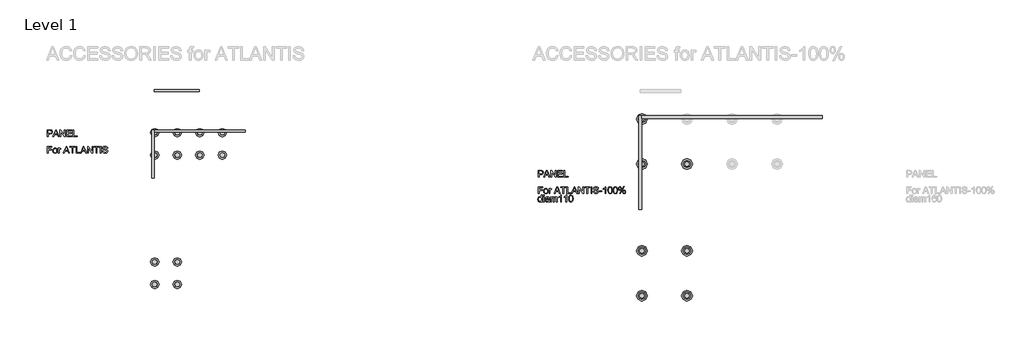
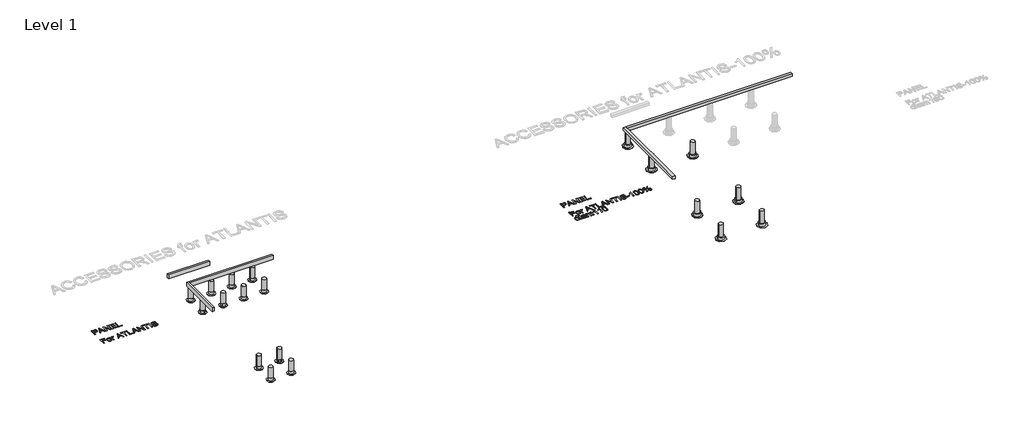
# One storey, part 1 of 6: 45 proxies.
"""IFC4 building model written with IfcOpenShell, lengths in millimetres."""

from ifc_helpers import new_model, si_unit, origin, origin_with_axes, place, context, project, spatial, polyline, outline, extrude, transform, mapped, element, save
from components import generic_models_6a19e57f, generic_models_4fecf16d, generic_models_13485cf7, generic_models_0d661f09, generic_models_1f42381d, generic_models_739762aa, generic_models_3906c24f, generic_models_1072ffb0, generic_models_70562a10

model = new_model("IFC4")

# Units and contexts
model_context = context("Model", 3, world=origin())
ifc_project = project(units=[si_unit("LENGTHUNIT", "METRE", prefix="MILLI")], contexts=[model_context])

# Site, building, storey
site = spatial("IfcSite", under=ifc_project)
building = spatial("IfcBuilding", under=site)
storey = spatial("IfcBuildingStorey", under=building, Name="Level 1", Elevation=0.0)

# Proxies
placement = place(None, origin())
generic_models_shape = generic_models_6a19e57f(model_context)
element("IfcBuildingElementProxy", 1, Name="Building Materials_Other_Accessory_PIPE BASE_for ATLANTIS : PIPE BASE_Ø110", ObjectType="Building Materials_Other_Accessory_PIPE BASE_for ATLANTIS : PIPE BASE_Ø110", at=placement, inside=storey, context=model_context, shape_type="MappedRepresentation", body=[
    mapped(generic_models_shape, transform((-8098.9493118, -1505.2229515, 0.0), x_axis=(1.0, 0.0, 0.0), y_axis=(0.0, 1.0, 0.0), z_axis=(0.0, 0.0, 1.0))),
])
element("IfcBuildingElementProxy", 2, Name="Building Materials_Other_Accessory_PIPE BASE_for ATLANTIS : PIPE BASE_Ø110", ObjectType="Building Materials_Other_Accessory_PIPE BASE_for ATLANTIS : PIPE BASE_Ø110", at=placement, inside=storey, context=model_context, shape_type="MappedRepresentation", body=[
    mapped(generic_models_shape, transform((-7598.9493118, -1505.2229515, 0.0), x_axis=(1.0, 0.0, 0.0), y_axis=(0.0, 1.0, 0.0), z_axis=(0.0, 0.0, 1.0))),
])
element("IfcBuildingElementProxy", 3, Name="Building Materials_Other_Accessory_PIPE BASE_for ATLANTIS : PIPE BASE_Ø110", ObjectType="Building Materials_Other_Accessory_PIPE BASE_for ATLANTIS : PIPE BASE_Ø110", at=placement, inside=storey, context=model_context, shape_type="MappedRepresentation", body=[
    mapped(generic_models_shape, transform((-7098.9493118, -1505.2229515, 0.0), x_axis=(1.0, 0.0, 0.0), y_axis=(0.0, 1.0, 0.0), z_axis=(0.0, 0.0, 1.0))),
])
element("IfcBuildingElementProxy", 4, Name="Building Materials_Other_Accessory_PIPE BASE_for ATLANTIS : PIPE BASE_Ø110", ObjectType="Building Materials_Other_Accessory_PIPE BASE_for ATLANTIS : PIPE BASE_Ø110", at=placement, inside=storey, context=model_context, shape_type="MappedRepresentation", body=[
    mapped(generic_models_shape, transform((-8098.9493118, -2005.2229515, 0.0), x_axis=(1.0, 0.0, 0.0), y_axis=(0.0, 1.0, 0.0), z_axis=(0.0, 0.0, 1.0))),
])
element("IfcBuildingElementProxy", 5, Name="Building Materials_Other_Accessory_PIPE BASE_for ATLANTIS : PIPE BASE_Ø110", ObjectType="Building Materials_Other_Accessory_PIPE BASE_for ATLANTIS : PIPE BASE_Ø110", at=placement, inside=storey, context=model_context, shape_type="MappedRepresentation", body=[
    mapped(generic_models_shape, transform((-7598.9493118, -2005.2229515, 0.0), x_axis=(1.0, 0.0, 0.0), y_axis=(0.0, 1.0, 0.0), z_axis=(0.0, 0.0, 1.0))),
])
element("IfcBuildingElementProxy", 6, Name="Building Materials_Other_Accessory_PIPE BASE_for ATLANTIS : PIPE BASE_Ø110", ObjectType="Building Materials_Other_Accessory_PIPE BASE_for ATLANTIS : PIPE BASE_Ø110", at=placement, inside=storey, context=model_context, shape_type="MappedRepresentation", body=[
    mapped(generic_models_shape, transform((-7098.9493118, -2005.2229515, 0.0), x_axis=(1.0, 0.0, 0.0), y_axis=(0.0, 1.0, 0.0), z_axis=(0.0, 0.0, 1.0))),
])
element("IfcBuildingElementProxy", 7, Name="Building Materials_Other_Accessory_PIPE BASE_for ATLANTIS : PIPE BASE_Ø110", ObjectType="Building Materials_Other_Accessory_PIPE BASE_for ATLANTIS : PIPE BASE_Ø110", at=placement, inside=storey, context=model_context, shape_type="MappedRepresentation", body=[
    mapped(generic_models_shape, transform((-6598.9493118, -1505.2229515, 0.0), x_axis=(1.0, 0.0, 0.0), y_axis=(0.0, 1.0, 0.0), z_axis=(0.0, 0.0, 1.0))),
])
element("IfcBuildingElementProxy", 8, Name="Building Materials_Other_Accessory_PIPE BASE_for ATLANTIS : PIPE BASE_Ø110", ObjectType="Building Materials_Other_Accessory_PIPE BASE_for ATLANTIS : PIPE BASE_Ø110", at=placement, inside=storey, context=model_context, shape_type="MappedRepresentation", body=[
    mapped(generic_models_shape, transform((-6598.9493118, -2005.2229515, 0.0), x_axis=(1.0, 0.0, 0.0), y_axis=(0.0, 1.0, 0.0), z_axis=(0.0, 0.0, 1.0))),
])
element("IfcBuildingElementProxy", 9, Name="Building Materials_Other_Accessory_PIPE BASE_for ATLANTIS : PIPE BASE_Ø110", ObjectType="Building Materials_Other_Accessory_PIPE BASE_for ATLANTIS : PIPE BASE_Ø110", at=placement, inside=storey, context=model_context, shape_type="MappedRepresentation", body=[
    mapped(generic_models_shape, transform((-8098.9493118, -4378.7802575, 0.0), x_axis=(1.0, 0.0, 0.0), y_axis=(0.0, 1.0, 0.0), z_axis=(0.0, 0.0, 1.0))),
])
element("IfcBuildingElementProxy", 10, Name="Building Materials_Other_Accessory_PIPE BASE_for ATLANTIS : PIPE BASE_Ø110", ObjectType="Building Materials_Other_Accessory_PIPE BASE_for ATLANTIS : PIPE BASE_Ø110", at=placement, inside=storey, context=model_context, shape_type="MappedRepresentation", body=[
    mapped(generic_models_shape, transform((-7598.9493118, -4378.7802575, 0.0), x_axis=(1.0, 0.0, 0.0), y_axis=(0.0, 1.0, 0.0), z_axis=(0.0, 0.0, 1.0))),
])
generic_models_2_shape = generic_models_4fecf16d(model_context)
element("IfcBuildingElementProxy", 11, Name="Building Materials_Other_Accessory_LEG_for ATLANTIS : LEG_Ø110", ObjectType="Building Materials_Other_Accessory_LEG_for ATLANTIS : LEG_Ø110", at=placement, inside=storey, context=model_context, shape_type="MappedRepresentation", body=[
    mapped(generic_models_2_shape, transform((-8098.9493118, -1505.2229515, 0.0), x_axis=(1.0, 0.0, 0.0), y_axis=(0.0, 1.0, 0.0), z_axis=(0.0, 0.0, 1.0))),
])
element("IfcBuildingElementProxy", 12, Name="Building Materials_Other_Accessory_LEG_for ATLANTIS : LEG_Ø110", ObjectType="Building Materials_Other_Accessory_LEG_for ATLANTIS : LEG_Ø110", at=placement, inside=storey, context=model_context, shape_type="MappedRepresentation", body=[
    mapped(generic_models_2_shape, transform((-7598.9493118, -1505.2229515, 0.0), x_axis=(1.0, 0.0, 0.0), y_axis=(0.0, 1.0, 0.0), z_axis=(0.0, 0.0, 1.0))),
])
element("IfcBuildingElementProxy", 13, Name="Building Materials_Other_Accessory_LEG_for ATLANTIS : LEG_Ø110", ObjectType="Building Materials_Other_Accessory_LEG_for ATLANTIS : LEG_Ø110", at=placement, inside=storey, context=model_context, shape_type="MappedRepresentation", body=[
    mapped(generic_models_2_shape, transform((-7098.9493118, -1505.2229515, 0.0), x_axis=(1.0, 0.0, 0.0), y_axis=(0.0, 1.0, 0.0), z_axis=(0.0, 0.0, 1.0))),
])
element("IfcBuildingElementProxy", 14, Name="Building Materials_Other_Accessory_LEG_for ATLANTIS : LEG_Ø110", ObjectType="Building Materials_Other_Accessory_LEG_for ATLANTIS : LEG_Ø110", at=placement, inside=storey, context=model_context, shape_type="MappedRepresentation", body=[
    mapped(generic_models_2_shape, transform((-8098.9493118, -2005.2229515, 0.0), x_axis=(1.0, 0.0, 0.0), y_axis=(0.0, 1.0, 0.0), z_axis=(0.0, 0.0, 1.0))),
])
element("IfcBuildingElementProxy", 15, Name="Building Materials_Other_Accessory_LEG_for ATLANTIS : LEG_Ø110", ObjectType="Building Materials_Other_Accessory_LEG_for ATLANTIS : LEG_Ø110", at=placement, inside=storey, context=model_context, shape_type="MappedRepresentation", body=[
    mapped(generic_models_2_shape, transform((-7598.9493118, -2005.2229515, 0.0), x_axis=(1.0, 0.0, 0.0), y_axis=(0.0, 1.0, 0.0), z_axis=(0.0, 0.0, 1.0))),
])
element("IfcBuildingElementProxy", 16, Name="Building Materials_Other_Accessory_LEG_for ATLANTIS : LEG_Ø110", ObjectType="Building Materials_Other_Accessory_LEG_for ATLANTIS : LEG_Ø110", at=placement, inside=storey, context=model_context, shape_type="MappedRepresentation", body=[
    mapped(generic_models_2_shape, transform((-7098.9493118, -2005.2229515, 0.0), x_axis=(1.0, 0.0, 0.0), y_axis=(0.0, 1.0, 0.0), z_axis=(0.0, 0.0, 1.0))),
])
element("IfcBuildingElementProxy", 17, Name="Building Materials_Other_Accessory_LEG_for ATLANTIS : LEG_Ø110", ObjectType="Building Materials_Other_Accessory_LEG_for ATLANTIS : LEG_Ø110", at=placement, inside=storey, context=model_context, shape_type="MappedRepresentation", body=[
    mapped(generic_models_2_shape, transform((-6598.9493118, -1505.2229515, 0.0), x_axis=(1.0, 0.0, 0.0), y_axis=(0.0, 1.0, 0.0), z_axis=(0.0, 0.0, 1.0))),
])
element("IfcBuildingElementProxy", 18, Name="Building Materials_Other_Accessory_LEG_for ATLANTIS : LEG_Ø110", ObjectType="Building Materials_Other_Accessory_LEG_for ATLANTIS : LEG_Ø110", at=placement, inside=storey, context=model_context, shape_type="MappedRepresentation", body=[
    mapped(generic_models_2_shape, transform((-6598.9493118, -2005.2229515, 0.0), x_axis=(1.0, 0.0, 0.0), y_axis=(0.0, 1.0, 0.0), z_axis=(0.0, 0.0, 1.0))),
])
element("IfcBuildingElementProxy", 19, Name="Building Materials_Other_Accessory_LEG_for ATLANTIS : LEG_Ø110", ObjectType="Building Materials_Other_Accessory_LEG_for ATLANTIS : LEG_Ø110", at=placement, inside=storey, context=model_context, shape_type="MappedRepresentation", body=[
    mapped(generic_models_2_shape, transform((-8098.9493118, -4378.7802575, 0.0), x_axis=(1.0, 0.0, 0.0), y_axis=(0.0, 1.0, 0.0), z_axis=(0.0, 0.0, 1.0))),
])
element("IfcBuildingElementProxy", 20, Name="Building Materials_Other_Accessory_LEG_for ATLANTIS : LEG_Ø110", ObjectType="Building Materials_Other_Accessory_LEG_for ATLANTIS : LEG_Ø110", at=placement, inside=storey, context=model_context, shape_type="MappedRepresentation", body=[
    mapped(generic_models_2_shape, transform((-7598.9493118, -4878.7802575, 0.0), x_axis=(-1.0, 0.0, 0.0), y_axis=(0.0, -1.0, 0.0), z_axis=(0.0, 0.0, 1.0))),
])
generic_models_3_shape = generic_models_13485cf7(model_context)
element("IfcBuildingElementProxy", 21, Name="Building Materials_Other_Accessory_PIPE BASE_for ATLANTIS : PIPE BASE_Ø160", ObjectType="Building Materials_Other_Accessory_PIPE BASE_for ATLANTIS : PIPE BASE_Ø160", at=placement, inside=storey, context=model_context, shape_type="MappedRepresentation", body=[
    mapped(generic_models_3_shape, transform((2720.4933821, -1201.7802575, 0.0), x_axis=(1.0, 0.0, 0.0), y_axis=(0.0, 1.0, 0.0), z_axis=(0.0, 0.0, 1.0))),
])
element("IfcBuildingElementProxy", 22, Name="Building Materials_Other_Accessory_PIPE BASE_for ATLANTIS : PIPE BASE_Ø160", ObjectType="Building Materials_Other_Accessory_PIPE BASE_for ATLANTIS : PIPE BASE_Ø160", at=placement, inside=storey, context=model_context, shape_type="MappedRepresentation", body=[
    mapped(generic_models_3_shape, transform((2720.4933821, -2201.7802575, 0.0), x_axis=(1.0, 0.0, 0.0), y_axis=(0.0, 1.0, 0.0), z_axis=(0.0, 0.0, 1.0))),
])
element("IfcBuildingElementProxy", 23, Name="Building Materials_Other_Accessory_PIPE BASE_for ATLANTIS : PIPE BASE_Ø160", ObjectType="Building Materials_Other_Accessory_PIPE BASE_for ATLANTIS : PIPE BASE_Ø160", at=placement, inside=storey, context=model_context, shape_type="MappedRepresentation", body=[
    mapped(generic_models_3_shape, transform((3720.4933821, -2201.7802575, 0.0), x_axis=(1.0, 0.0, 0.0), y_axis=(0.0, 1.0, 0.0), z_axis=(0.0, 0.0, 1.0))),
])
element("IfcBuildingElementProxy", 24, Name="Building Materials_Other_Accessory_PIPE BASE_for ATLANTIS : PIPE BASE_Ø160", ObjectType="Building Materials_Other_Accessory_PIPE BASE_for ATLANTIS : PIPE BASE_Ø160", at=placement, inside=storey, context=model_context, shape_type="MappedRepresentation", body=[
    mapped(generic_models_3_shape, transform((2720.4933821, -4128.7802575, 0.0), x_axis=(1.0, 0.0, 0.0), y_axis=(0.0, 1.0, 0.0), z_axis=(0.0, 0.0, 1.0))),
])
element("IfcBuildingElementProxy", 25, Name="Building Materials_Other_Accessory_PIPE BASE_for ATLANTIS : PIPE BASE_Ø160", ObjectType="Building Materials_Other_Accessory_PIPE BASE_for ATLANTIS : PIPE BASE_Ø160", at=placement, inside=storey, context=model_context, shape_type="MappedRepresentation", body=[
    mapped(generic_models_3_shape, transform((3720.4933821, -4128.7802575, 0.0), x_axis=(1.0, 0.0, 0.0), y_axis=(0.0, 1.0, 0.0), z_axis=(0.0, 0.0, 1.0))),
])
generic_models_4_shape = generic_models_0d661f09(model_context)
element("IfcBuildingElementProxy", 26, Name="Building Materials_Other_Accessory_LEG_for ATLANTIS : LEG_Ø110", ObjectType="Building Materials_Other_Accessory_LEG_for ATLANTIS : LEG_Ø110", at=placement, inside=storey, context=model_context, shape_type="MappedRepresentation", body=[
    mapped(generic_models_4_shape, transform((2720.4933821, -1201.7802575, 0.0), x_axis=(1.0, 0.0, 0.0), y_axis=(0.0, 1.0, 0.0), z_axis=(0.0, 0.0, 1.0))),
])
element("IfcBuildingElementProxy", 27, Name="Building Materials_Other_Accessory_LEG_for ATLANTIS : LEG_Ø110", ObjectType="Building Materials_Other_Accessory_LEG_for ATLANTIS : LEG_Ø110", at=placement, inside=storey, context=model_context, shape_type="MappedRepresentation", body=[
    mapped(generic_models_4_shape, transform((2720.4933821, -2201.7802575, 0.0), x_axis=(1.0, 0.0, 0.0), y_axis=(0.0, 1.0, 0.0), z_axis=(0.0, 0.0, 1.0))),
])
element("IfcBuildingElementProxy", 28, Name="Building Materials_Other_Accessory_LEG_for ATLANTIS : LEG_Ø110", ObjectType="Building Materials_Other_Accessory_LEG_for ATLANTIS : LEG_Ø110", at=placement, inside=storey, context=model_context, shape_type="MappedRepresentation", body=[
    mapped(generic_models_4_shape, transform((3720.4933821, -2201.7802575, 0.0), x_axis=(1.0, 0.0, 0.0), y_axis=(0.0, 1.0, 0.0), z_axis=(0.0, 0.0, 1.0))),
])
element("IfcBuildingElementProxy", 29, Name="Building Materials_Other_Accessory_LEG_for ATLANTIS : LEG_Ø110", ObjectType="Building Materials_Other_Accessory_LEG_for ATLANTIS : LEG_Ø110", at=placement, inside=storey, context=model_context, shape_type="MappedRepresentation", body=[
    mapped(generic_models_4_shape, transform((2720.4933821, -4128.7802575, 0.0), x_axis=(1.0, 0.0, 0.0), y_axis=(0.0, 1.0, 0.0), z_axis=(0.0, 0.0, 1.0))),
])
element("IfcBuildingElementProxy", 30, Name="Building Materials_Other_Accessory_LEG_for ATLANTIS : LEG_Ø110", ObjectType="Building Materials_Other_Accessory_LEG_for ATLANTIS : LEG_Ø110", at=placement, inside=storey, context=model_context, shape_type="MappedRepresentation", body=[
    mapped(generic_models_4_shape, transform((3720.4933821, -5128.7802575, 0.0), x_axis=(-1.0, 0.0, 0.0), y_axis=(0.0, -1.0, 0.0), z_axis=(0.0, 0.0, 1.0))),
])
generic_models_5_shape = generic_models_1f42381d(model_context)
element("IfcBuildingElementProxy", 31, Name="Building-Materials_Other_Daliform_Simple-Family_Accessory_PANEL_for ATLANTIS : PANEL_ATLANTIS_diam110_5x100x10", ObjectType="Building-Materials_Other_Daliform_Simple-Family_Accessory_PANEL_for ATLANTIS : PANEL_ATLANTIS_diam110_5x100x10", at=placement, inside=storey, context=model_context, shape_type="MappedRepresentation", body=[
    mapped(generic_models_5_shape, transform((-8110.3920058, -1443.7802575, 340.0), x_axis=(1.0, 0.0, 0.0), y_axis=(0.0, 1.0, 0.0), z_axis=(0.0, 0.0, 1.0))),
])
generic_models_6_shape = generic_models_739762aa(model_context)
element("IfcBuildingElementProxy", 32, Name="Building-Materials_Other_Daliform_Simple-Family_Accessory_PANEL_for ATLANTIS : PANEL_ATLANTIS-100_diam110_6.5x90x6.5", ObjectType="Building-Materials_Other_Daliform_Simple-Family_Accessory_PANEL_for ATLANTIS : PANEL_ATLANTIS-100_diam110_6.5x90x6.5", at=placement, inside=storey, context=model_context, shape_type="MappedRepresentation", body=[
    mapped(generic_models_6_shape, transform((2712.4933821, -1128.7802575, 380.0), x_axis=(1.0, 0.0, 0.0), y_axis=(0.0, 1.0, 0.0), z_axis=(0.0, 0.0, 1.0))),
])
generic_models_7_shape = generic_models_3906c24f(model_context)
element("IfcBuildingElementProxy", 33, Name="Building-Materials_Other_Daliform_Simple-Family_Accessory_PANEL_for ATLANTIS : PANEL_ATLANTIS_diam110_5x100x10", ObjectType="Building-Materials_Other_Daliform_Simple-Family_Accessory_PANEL_for ATLANTIS : PANEL_ATLANTIS_diam110_5x100x10", at=placement, inside=storey, context=model_context, shape_type="MappedRepresentation", body=[
    mapped(generic_models_7_shape, transform((-8110.3920058, -2516.6656454, 340.0), x_axis=(0.0, 1.0, 0.0), y_axis=(-1.0, 0.0, 0.0), z_axis=(0.0, 0.0, 1.0))),
])
generic_models_8_shape = generic_models_1072ffb0(model_context)
element("IfcBuildingElementProxy", 34, Name="Building-Materials_Other_Daliform_Simple-Family_Accessory_PANEL_for ATLANTIS : PANEL_ATLANTIS-100_diam110_6.5x90x6.5", ObjectType="Building-Materials_Other_Daliform_Simple-Family_Accessory_PANEL_for ATLANTIS : PANEL_ATLANTIS-100_diam110_6.5x90x6.5", at=placement, inside=storey, context=model_context, shape_type="MappedRepresentation", body=[
    mapped(generic_models_8_shape, transform((2712.4933821, -1128.7802575, 380.0), x_axis=(0.0, -1.0, 0.0), y_axis=(1.0, 0.0, 0.0), z_axis=(0.0, 0.0, 1.0))),
])
generic_models_9_shape = generic_models_70562a10(model_context)
element("IfcBuildingElementProxy", 35, Name="Building-Materials_Other_Daliform_Simple-Family_Accessory_PANEL_for ATLANTIS : PANEL_ATLANTIS_diam110_5x100x10", ObjectType="Building-Materials_Other_Daliform_Simple-Family_Accessory_PANEL_for ATLANTIS : PANEL_ATLANTIS_diam110_5x100x10", at=placement, inside=storey, context=model_context, shape_type="MappedRepresentation", body=[
    mapped(generic_models_9_shape, transform((-8110.3920058, -543.7802575, 0.0), x_axis=(1.0, 0.0, 0.0), y_axis=(0.0, 1.0, 0.0), z_axis=(0.0, 0.0, 1.0))),
])
element("IfcBuildingElementProxy", 36, Name="Building Materials_Other_Accessory_PIPE BASE_for ATLANTIS : PIPE BASE_Ø110", ObjectType="Building Materials_Other_Accessory_PIPE BASE_for ATLANTIS : PIPE BASE_Ø110", at=placement, inside=storey, context=model_context, shape_type="MappedRepresentation", body=[
    mapped(generic_models_shape, transform((-7598.9493118, -4878.7802575, 0.0), x_axis=(1.0, 0.0, 0.0), y_axis=(0.0, 1.0, 0.0), z_axis=(0.0, 0.0, 1.0))),
])
element("IfcBuildingElementProxy", 37, Name="Building Materials_Other_Accessory_PIPE BASE_for ATLANTIS : PIPE BASE_Ø110", ObjectType="Building Materials_Other_Accessory_PIPE BASE_for ATLANTIS : PIPE BASE_Ø110", at=placement, inside=storey, context=model_context, shape_type="MappedRepresentation", body=[
    mapped(generic_models_shape, transform((-8098.9493118, -4878.7802575, 0.0), x_axis=(1.0, 0.0, 0.0), y_axis=(0.0, 1.0, 0.0), z_axis=(0.0, 0.0, 1.0))),
])
element("IfcBuildingElementProxy", 38, Name="Building Materials_Other_Accessory_PIPE BASE_for ATLANTIS : PIPE BASE_Ø160", ObjectType="Building Materials_Other_Accessory_PIPE BASE_for ATLANTIS : PIPE BASE_Ø160", at=placement, inside=storey, context=model_context, shape_type="MappedRepresentation", body=[
    mapped(generic_models_3_shape, transform((3720.4933821, -5128.7802575, 0.0), x_axis=(1.0, 0.0, 0.0), y_axis=(0.0, 1.0, 0.0), z_axis=(0.0, 0.0, 1.0))),
])
element("IfcBuildingElementProxy", 39, Name="Building Materials_Other_Accessory_PIPE BASE_for ATLANTIS : PIPE BASE_Ø160", ObjectType="Building Materials_Other_Accessory_PIPE BASE_for ATLANTIS : PIPE BASE_Ø160", at=placement, inside=storey, context=model_context, shape_type="MappedRepresentation", body=[
    mapped(generic_models_3_shape, transform((2720.4933821, -5128.7802575, 0.0), x_axis=(1.0, 0.0, 0.0), y_axis=(0.0, 1.0, 0.0), z_axis=(0.0, 0.0, 1.0))),
])
element("IfcBuildingElementProxy", 40, Name="Building Materials_Other_Accessory_LEG_for ATLANTIS : LEG_Ø110", ObjectType="Building Materials_Other_Accessory_LEG_for ATLANTIS : LEG_Ø110", at=placement, inside=storey, context=model_context, shape_type="MappedRepresentation", body=[
    mapped(generic_models_4_shape, transform((3720.4933821, -4128.7802575, 0.0), x_axis=(-1.0, 0.0, 0.0), y_axis=(0.0, -1.0, 0.0), z_axis=(0.0, 0.0, 1.0))),
])
element("IfcBuildingElementProxy", 41, Name="Building Materials_Other_Accessory_LEG_for ATLANTIS : LEG_Ø110", ObjectType="Building Materials_Other_Accessory_LEG_for ATLANTIS : LEG_Ø110", at=placement, inside=storey, context=model_context, shape_type="MappedRepresentation", body=[
    mapped(generic_models_4_shape, transform((2720.4933821, -5128.7802575, 0.0), x_axis=(1.0, 0.0, 0.0), y_axis=(0.0, 1.0, 0.0), z_axis=(0.0, 0.0, 1.0))),
])
element("IfcBuildingElementProxy", 42, Name="Building Materials_Other_Accessory_LEG_for ATLANTIS : LEG_Ø110", ObjectType="Building Materials_Other_Accessory_LEG_for ATLANTIS : LEG_Ø110", at=placement, inside=storey, context=model_context, shape_type="MappedRepresentation", body=[
    mapped(generic_models_2_shape, transform((-7598.9493118, -4378.7802575, 0.0), x_axis=(-1.0, 0.0, 0.0), y_axis=(0.0, -1.0, 0.0), z_axis=(0.0, 0.0, 1.0))),
])
element("IfcBuildingElementProxy", 43, Name="Building Materials_Other_Accessory_LEG_for ATLANTIS : LEG_Ø110", ObjectType="Building Materials_Other_Accessory_LEG_for ATLANTIS : LEG_Ø110", at=placement, inside=storey, context=model_context, shape_type="MappedRepresentation", body=[
    mapped(generic_models_2_shape, transform((-8098.9493118, -4878.7802575, 0.0), x_axis=(1.0, 0.0, 0.0), y_axis=(0.0, 1.0, 0.0), z_axis=(0.0, 0.0, 1.0))),
])
element("IfcBuildingElementProxy", 44, Name="150mm Arial", ObjectType="150mm Arial", at=placement, inside=storey, context=model_context, shape_type="SweptSolid", body=[
    extrude(outline(polyline([(-10483.0255045, -1593.8180308), (-10483.0255045, -1443.1335656), (-10427.1810176, -1443.1335656), (-10404.6666395, -1444.5683053), (-10386.3645103, -1451.6132455), (-10374.5003159, -1466.1813725), (-10370.0121556, -1486.727582), (-10373.0425835, -1504.4870853), (-10382.1338673, -1519.2851386), (-10399.134614, -1529.2731347), (-10425.8934306, -1532.6024668), (-10464.1899463, -1532.6024668), (-10464.1899463, -1593.8180308), (-10483.0255045, -1593.8180308)]), holes=[polyline([(-10464.1899463, -1513.7669086), (-10424.7897847, -1513.7669086), (-10408.0879421, -1512.0378632), (-10397.0514822, -1506.8507271), (-10390.8986558, -1498.527397), (-10388.8477137, -1487.3897696), (-10393.685362, -1471.791573), (-10406.3956849, -1463.2567107), (-10425.231243, -1461.9691237), (-10464.1899463, -1461.9691237), (-10464.1899463, -1513.7669086)])]), origin_with_axes(), (0.0, 0.0, 1.0), 5.0),
    extrude(outline(polyline([(-10361.6612343, -1593.8180308), (-10301.5125281, -1443.1335656), (-10285.4728731, -1443.1335656), (-10225.3241669, -1593.8180308), (-10245.2265828, -1593.8180308), (-10262.4802484, -1546.7291354), (-10324.541941, -1546.7291354), (-10341.7588183, -1593.8180308), (-10361.6612343, -1593.8180308)]), holes=[polyline([(-10317.6257595, -1527.8935772), (-10269.3596417, -1527.8935772), (-10282.9344873, -1490.8478603), (-10293.4927006, -1461.9691237), (-10302.8736915, -1487.6104988), (-10317.6257595, -1527.8935772)])]), origin_with_axes(), (0.0, 0.0, 1.0), 5.0),
    extrude(outline(polyline([(-10205.2010217, -1593.8180308), (-10205.2010217, -1443.1335656), (-10185.0410884, -1443.1335656), (-10106.3143414, -1562.511273), (-10106.3143414, -1443.1335656), (-10087.4787833, -1443.1335656), (-10087.4787833, -1593.8180308), (-10107.6387166, -1593.8180308), (-10186.3654636, -1474.4035351), (-10186.3654636, -1593.8180308), (-10205.2010217, -1593.8180308)])), origin_with_axes(), (0.0, 0.0, 1.0), 5.0),
    extrude(outline(polyline([(-10054.5165565, -1593.8180308), (-10054.5165565, -1443.1335656), (-9946.2120971, -1443.1335656), (-9946.2120971, -1461.9691237), (-10035.6809984, -1461.9691237), (-10035.6809984, -1506.7035743), (-9950.9209867, -1506.7035743), (-9950.9209867, -1525.5391325), (-10035.6809984, -1525.5391325), (-10035.6809984, -1574.9824726), (-9943.8576524, -1574.9824726), (-9943.8576524, -1593.8180308), (-10054.5165565, -1593.8180308)])), origin_with_axes(), (0.0, 0.0, 1.0), 5.0),
    extrude(outline(polyline([(-9915.6043151, -1593.8180308), (-9915.6043151, -1443.1335656), (-9896.768757, -1443.1335656), (-9896.768757, -1574.9824726), (-9821.4265244, -1574.9824726), (-9821.4265244, -1593.8180308), (-9915.6043151, -1593.8180308)])), origin_with_axes(), (0.0, 0.0, 1.0), 5.0),
    extrude(outline(polyline([(-10483.0255045, -1959.7424843), (-10483.0255045, -1809.0580191), (-10381.7843794, -1809.0580191), (-10381.7843794, -1827.8935772), (-10464.1899463, -1827.8935772), (-10464.1899463, -1872.6280279), (-10393.5566033, -1872.6280279), (-10393.5566033, -1891.463586), (-10464.1899463, -1891.463586), (-10464.1899463, -1959.7424843), (-10483.0255045, -1959.7424843)])), origin_with_axes(), (0.0, 0.0, 1.0), 5.0),
    extrude(outline(polyline([(-10362.9488213, -1904.4130322), (-10358.8745282, -1877.7323905), (-10346.6516489, -1858.9796058), (-10331.550093, -1849.791753), (-10313.4686929, -1846.7291354), (-10293.6812401, -1850.4585391), (-10277.8761099, -1861.6467503), (-10267.5156332, -1879.4108521), (-10264.062141, -1902.8679279), (-10265.5888512, -1921.8966241), (-10270.1689821, -1936.3819776), (-10277.6691763, -1947.229898), (-10287.9560765, -1955.3462945), (-10300.1743573, -1960.4092704), (-10313.4686929, -1962.0969291), (-10333.495269, -1958.3813209), (-10349.2820051, -1947.2344965), (-10359.5321172, -1929.0979141), (-10362.9488213, -1904.4130322)]), holes=[polyline([(-10344.1132631, -1904.376244), (-10341.9335623, -1921.422976), (-10335.3944598, -1933.5676804), (-10325.5536165, -1940.8379483), (-10313.4686929, -1943.2613709), (-10301.4389517, -1940.8241527), (-10291.6165024, -1933.5124981), (-10285.0773999, -1921.2068453), (-10282.8976991, -1903.7876328), (-10285.0911955, -1887.2375416), (-10291.6716847, -1875.2583841), (-10301.5079295, -1867.9881162), (-10313.4686929, -1865.5646935), (-10325.5536165, -1867.9789191), (-10335.3944598, -1875.2215959), (-10341.9335623, -1887.3387091), (-10344.1132631, -1904.376244)])]), origin_with_axes(), (0.0, 0.0, 1.0), 5.0),
    extrude(outline(polyline([(-10242.872138, -1959.7424843), (-10242.872138, -1849.0835802), (-10226.3910247, -1849.0835802), (-10226.3910247, -1865.4543289), (-10214.6923772, -1850.3711671), (-10202.9201534, -1846.7291354), (-10184.0110188, -1852.5416709), (-10190.3018009, -1869.4274545), (-10203.5455528, -1865.5646935), (-10214.1957365, -1869.2803017), (-10220.9831593, -1879.5809976), (-10224.0365799, -1901.5803409), (-10224.0365799, -1959.7424843), (-10242.872138, -1959.7424843)])), origin_with_axes(), (0.0, 0.0, 1.0), 5.0),
    extrude(outline(polyline([(-10128.5712021, -1959.7424843), (-10068.4224959, -1809.0580191), (-10052.3828409, -1809.0580191), (-9992.2341347, -1959.7424843), (-10012.1365507, -1959.7424843), (-10029.3902162, -1912.6535889), (-10091.4519088, -1912.6535889), (-10108.6687862, -1959.7424843), (-10128.5712021, -1959.7424843)]), holes=[polyline([(-10084.5357273, -1893.8180308), (-10036.2696095, -1893.8180308), (-10049.8444552, -1856.7723139), (-10060.4026684, -1827.8935772), (-10069.7836593, -1853.5349523), (-10084.5357273, -1893.8180308)])]), origin_with_axes(), (0.0, 0.0, 1.0), 5.0),
    extrude(outline(polyline([(-9934.4398733, -1959.7424843), (-9934.4398733, -1827.8935772), (-9983.8832134, -1827.8935772), (-9983.8832134, -1809.0580191), (-9866.160975, -1809.0580191), (-9866.160975, -1827.8935772), (-9915.6043151, -1827.8935772), (-9915.6043151, -1959.7424843), (-9934.4398733, -1959.7424843)])), origin_with_axes(), (0.0, 0.0, 1.0), 5.0),
    extrude(outline(polyline([(-9844.9709721, -1959.7424843), (-9844.9709721, -1809.0580191), (-9826.1354139, -1809.0580191), (-9826.1354139, -1940.9069262), (-9750.7931813, -1940.9069262), (-9750.7931813, -1959.7424843), (-9844.9709721, -1959.7424843)])), origin_with_axes(), (0.0, 0.0, 1.0), 5.0),
    extrude(outline(polyline([(-9747.1511495, -1959.7424843), (-9687.0024433, -1809.0580191), (-9670.9627883, -1809.0580191), (-9610.8140821, -1959.7424843), (-9630.7164981, -1959.7424843), (-9647.9701636, -1912.6535889), (-9710.0318562, -1912.6535889), (-9727.2487336, -1959.7424843), (-9747.1511495, -1959.7424843)]), holes=[polyline([(-9703.1156747, -1893.8180308), (-9654.8495569, -1893.8180308), (-9668.4244026, -1856.7723139), (-9678.9826158, -1827.8935772), (-9688.3636067, -1853.5349523), (-9703.1156747, -1893.8180308)])]), origin_with_axes(), (0.0, 0.0, 1.0), 5.0),
    extrude(outline(polyline([(-9590.690937, -1959.7424843), (-9590.690937, -1809.0580191), (-9570.5310037, -1809.0580191), (-9491.8042567, -1928.4357265), (-9491.8042567, -1809.0580191), (-9472.9686985, -1809.0580191), (-9472.9686985, -1959.7424843), (-9493.1286319, -1959.7424843), (-9571.8553788, -1840.3279887), (-9571.8553788, -1959.7424843), (-9590.690937, -1959.7424843)])), origin_with_axes(), (0.0, 0.0, 1.0), 5.0),
    extrude(outline(polyline([(-9402.3353555, -1959.7424843), (-9402.3353555, -1827.8935772), (-9451.7786956, -1827.8935772), (-9451.7786956, -1809.0580191), (-9334.0564572, -1809.0580191), (-9334.0564572, -1827.8935772), (-9383.4997973, -1827.8935772), (-9383.4997973, -1959.7424843), (-9402.3353555, -1959.7424843)])), origin_with_axes(), (0.0, 0.0, 1.0), 5.0),
    extrude(outline(polyline([(-9310.5120095, -1959.7424843), (-9310.5120095, -1809.0580191), (-9291.6764513, -1809.0580191), (-9291.6764513, -1959.7424843), (-9310.5120095, -1959.7424843)])), origin_with_axes(), (0.0, 0.0, 1.0), 5.0),
    extrude(outline(polyline([(-9261.0686693, -1907.9446994), (-9242.2331112, -1907.9446994), (-9236.1630582, -1926.7986516), (-9221.3374138, -1938.7180283), (-9198.7494593, -1943.2613709), (-9179.0677726, -1939.8216743), (-9166.3574497, -1930.367107), (-9162.181989, -1917.7303605), (-9165.308986, -1905.9765307), (-9178.1112794, -1897.4232743), (-9205.5368821, -1890.2311813), (-9235.0594123, -1880.9421609), (-9251.0806731, -1866.9258569), (-9256.3597798, -1848.2006634), (-9254.7273034, -1837.168802), (-9249.8298744, -1826.8819018), (-9241.7962513, -1818.1630985), (-9230.7551929, -1811.8355282), (-9202.8329495, -1806.7035743), (-9173.0345079, -1812.0746514), (-9161.6117719, -1818.7057244), (-9153.1688801, -1827.856789), (-9147.8253941, -1838.9576282), (-9145.7008756, -1851.4380249), (-9164.5364338, -1851.4380249), (-9167.9945245, -1840.19923), (-9175.2050116, -1832.087432), (-9186.4713977, -1827.1762073), (-9202.0971855, -1825.5391325), (-9218.0908552, -1827.1578132), (-9229.0629357, -1832.0138556), (-9235.4089001, -1839.1599633), (-9237.5242216, -1847.6488404), (-9236.0251025, -1854.8869186), (-9231.5277451, -1860.7086512), (-9200.7728103, -1871.2300763), (-9167.4427015, -1880.6846435), (-9156.7051458, -1887.5180516), (-9149.2141487, -1895.9517463), (-9144.8133603, -1905.8937573), (-9143.3464309, -1917.2521139), (-9145.0340895, -1928.8633893), (-9150.0970655, -1939.7848861), (-9158.3284251, -1949.1842711), (-9169.5212348, -1956.2292113), (-9182.9811173, -1960.6299996), (-9198.0136953, -1962.0969291), (-9216.4675759, -1960.5150365), (-9231.6565038, -1955.7693588), (-9243.7552229, -1947.8415018), (-9252.9384772, -1936.7130714), (-9258.8337862, -1923.1566199), (-9261.0686693, -1907.9446994)])), origin_with_axes(), (0.0, 0.0, 1.0), 5.0),
])
element("IfcBuildingElementProxy", 45, Name="150mm Arial", ObjectType="150mm Arial", at=placement, inside=storey, context=model_context, shape_type="SweptSolid", body=[
    extrude(outline(polyline([(416.9744955, -2493.8180308), (416.9744955, -2343.1335656), (472.8189824, -2343.1335656), (495.3333605, -2344.5683053), (513.6354897, -2351.6132455), (525.4996841, -2366.1813725), (529.9878444, -2386.727582), (526.9574165, -2404.4870853), (517.8661327, -2419.2851386), (500.865386, -2429.2731347), (474.1065694, -2432.6024668), (435.8100537, -2432.6024668), (435.8100537, -2493.8180308), (416.9744955, -2493.8180308)]), holes=[polyline([(435.8100537, -2413.7669086), (475.2102153, -2413.7669086), (491.9120579, -2412.0378632), (502.9485178, -2406.8507271), (509.1013442, -2398.527397), (511.1522863, -2387.3897696), (506.314638, -2371.791573), (493.6043151, -2363.2567107), (474.768757, -2361.9691237), (435.8100537, -2361.9691237), (435.8100537, -2413.7669086)])]), origin_with_axes(), (0.0, 0.0, 1.0), 5.0),
    extrude(outline(polyline([(538.3387657, -2493.8180308), (598.4874719, -2343.1335656), (614.5271269, -2343.1335656), (674.6758331, -2493.8180308), (654.7734172, -2493.8180308), (637.5197516, -2446.7291354), (575.458059, -2446.7291354), (558.2411817, -2493.8180308), (538.3387657, -2493.8180308)]), holes=[polyline([(582.3742405, -2427.8935772), (630.6403583, -2427.8935772), (617.0655127, -2390.8478603), (606.5072994, -2361.9691237), (597.1263085, -2387.6104988), (582.3742405, -2427.8935772)])]), origin_with_axes(), (0.0, 0.0, 1.0), 5.0),
    extrude(outline(polyline([(694.7989783, -2493.8180308), (694.7989783, -2343.1335656), (714.9589116, -2343.1335656), (793.6856586, -2462.511273), (793.6856586, -2343.1335656), (812.5212167, -2343.1335656), (812.5212167, -2493.8180308), (792.3612834, -2493.8180308), (713.6345364, -2374.4035351), (713.6345364, -2493.8180308), (694.7989783, -2493.8180308)])), origin_with_axes(), (0.0, 0.0, 1.0), 5.0),
    extrude(outline(polyline([(845.4834435, -2493.8180308), (845.4834435, -2343.1335656), (953.7879029, -2343.1335656), (953.7879029, -2361.9691237), (864.3190016, -2361.9691237), (864.3190016, -2406.7035743), (949.0790133, -2406.7035743), (949.0790133, -2425.5391325), (864.3190016, -2425.5391325), (864.3190016, -2474.9824726), (956.1423476, -2474.9824726), (956.1423476, -2493.8180308), (845.4834435, -2493.8180308)])), origin_with_axes(), (0.0, 0.0, 1.0), 5.0),
    extrude(outline(polyline([(984.3956849, -2493.8180308), (984.3956849, -2343.1335656), (1003.231243, -2343.1335656), (1003.231243, -2474.9824726), (1078.5734756, -2474.9824726), (1078.5734756, -2493.8180308), (984.3956849, -2493.8180308)])), origin_with_axes(), (0.0, 0.0, 1.0), 5.0),
    extrude(outline(polyline([(416.9744955, -2859.7424843), (416.9744955, -2709.0580191), (518.2156206, -2709.0580191), (518.2156206, -2727.8935772), (435.8100537, -2727.8935772), (435.8100537, -2772.6280279), (506.4433967, -2772.6280279), (506.4433967, -2791.463586), (435.8100537, -2791.463586), (435.8100537, -2859.7424843), (416.9744955, -2859.7424843)])), origin_with_axes(), (0.0, 0.0, 1.0), 5.0),
    extrude(outline(polyline([(537.0511787, -2804.4130322), (541.1254718, -2777.7323905), (553.3483511, -2758.9796058), (568.449907, -2749.791753), (586.5313071, -2746.7291354), (606.3187599, -2750.4585391), (622.1238901, -2761.6467503), (632.4843668, -2779.4108521), (635.937859, -2802.8679279), (634.4111488, -2821.8966241), (629.8310179, -2836.3819776), (622.3308237, -2847.229898), (612.0439235, -2855.3462945), (599.8256427, -2860.4092704), (586.5313071, -2862.0969291), (566.504731, -2858.3813209), (550.7179949, -2847.2344965), (540.4678828, -2829.0979141), (537.0511787, -2804.4130322)]), holes=[polyline([(555.8867369, -2804.376244), (558.0664377, -2821.422976), (564.6055402, -2833.5676804), (574.4463835, -2840.8379483), (586.5313071, -2843.2613709), (598.5610483, -2840.8241527), (608.3834976, -2833.5124981), (614.9226001, -2821.2068453), (617.1023009, -2803.7876328), (614.9088045, -2787.2375416), (608.3283153, -2775.2583841), (598.4920705, -2767.9881162), (586.5313071, -2765.5646935), (574.4463835, -2767.9789191), (564.6055402, -2775.2215959), (558.0664377, -2787.3387091), (555.8867369, -2804.376244)])]), origin_with_axes(), (0.0, 0.0, 1.0), 5.0),
    extrude(outline(polyline([(657.127862, -2859.7424843), (657.127862, -2749.0835802), (673.6089753, -2749.0835802), (673.6089753, -2765.4543289), (685.3076228, -2750.3711671), (697.0798466, -2746.7291354), (715.9889812, -2752.5416709), (709.6981991, -2769.4274545), (696.4544472, -2765.5646935), (685.8042635, -2769.2803017), (679.0168407, -2779.5809976), (675.9634201, -2801.5803409), (675.9634201, -2859.7424843), (657.127862, -2859.7424843)])), origin_with_axes(), (0.0, 0.0, 1.0), 5.0),
    extrude(outline(polyline([(771.4287979, -2859.7424843), (831.5775041, -2709.0580191), (847.6171591, -2709.0580191), (907.7658653, -2859.7424843), (887.8634493, -2859.7424843), (870.6097838, -2812.6535889), (808.5480912, -2812.6535889), (791.3312138, -2859.7424843), (771.4287979, -2859.7424843)]), holes=[polyline([(815.4642727, -2793.8180308), (863.7303905, -2793.8180308), (850.1555448, -2756.7723139), (839.5973316, -2727.8935772), (830.2163407, -2753.5349523), (815.4642727, -2793.8180308)])]), origin_with_axes(), (0.0, 0.0, 1.0), 5.0),
    extrude(outline(polyline([(965.5601267, -2859.7424843), (965.5601267, -2727.8935772), (916.1167866, -2727.8935772), (916.1167866, -2709.0580191), (1033.839025, -2709.0580191), (1033.839025, -2727.8935772), (984.3956849, -2727.8935772), (984.3956849, -2859.7424843), (965.5601267, -2859.7424843)])), origin_with_axes(), (0.0, 0.0, 1.0), 5.0),
    extrude(outline(polyline([(1055.0290279, -2859.7424843), (1055.0290279, -2709.0580191), (1073.8645861, -2709.0580191), (1073.8645861, -2840.9069262), (1149.2068187, -2840.9069262), (1149.2068187, -2859.7424843), (1055.0290279, -2859.7424843)])), origin_with_axes(), (0.0, 0.0, 1.0), 5.0),
    extrude(outline(polyline([(1152.8488505, -2859.7424843), (1212.9975567, -2709.0580191), (1229.0372117, -2709.0580191), (1289.1859179, -2859.7424843), (1269.2835019, -2859.7424843), (1252.0298364, -2812.6535889), (1189.9681438, -2812.6535889), (1172.7512664, -2859.7424843), (1152.8488505, -2859.7424843)]), holes=[polyline([(1196.8843253, -2793.8180308), (1245.1504431, -2793.8180308), (1231.5755974, -2756.7723139), (1221.0173842, -2727.8935772), (1211.6363933, -2753.5349523), (1196.8843253, -2793.8180308)])]), origin_with_axes(), (0.0, 0.0, 1.0), 5.0),
    extrude(outline(polyline([(1309.309063, -2859.7424843), (1309.309063, -2709.0580191), (1329.4689963, -2709.0580191), (1408.1957433, -2828.4357265), (1408.1957433, -2709.0580191), (1427.0313015, -2709.0580191), (1427.0313015, -2859.7424843), (1406.8713681, -2859.7424843), (1328.1446212, -2740.3279887), (1328.1446212, -2859.7424843), (1309.309063, -2859.7424843)])), origin_with_axes(), (0.0, 0.0, 1.0), 5.0),
    extrude(outline(polyline([(1497.6646445, -2859.7424843), (1497.6646445, -2727.8935772), (1448.2213044, -2727.8935772), (1448.2213044, -2709.0580191), (1565.9435428, -2709.0580191), (1565.9435428, -2727.8935772), (1516.5002027, -2727.8935772), (1516.5002027, -2859.7424843), (1497.6646445, -2859.7424843)])), origin_with_axes(), (0.0, 0.0, 1.0), 5.0),
    extrude(outline(polyline([(1589.4879905, -2859.7424843), (1589.4879905, -2709.0580191), (1608.3235487, -2709.0580191), (1608.3235487, -2859.7424843), (1589.4879905, -2859.7424843)])), origin_with_axes(), (0.0, 0.0, 1.0), 5.0),
    extrude(outline(polyline([(1638.9313307, -2807.9446994), (1657.7668888, -2807.9446994), (1663.8369418, -2826.7986516), (1678.6625862, -2838.7180283), (1701.2505407, -2843.2613709), (1720.9322274, -2839.8216743), (1733.6425503, -2830.367107), (1737.818011, -2817.7303605), (1734.691014, -2805.9765307), (1721.8887206, -2797.4232743), (1694.4631179, -2790.2311813), (1664.9405877, -2780.9421609), (1648.9193269, -2766.9258569), (1643.6402202, -2748.2006634), (1645.2726966, -2737.168802), (1650.1701256, -2726.8819018), (1658.2037487, -2718.1630985), (1669.2448071, -2711.8355282), (1697.1670505, -2706.7035743), (1726.9654921, -2712.0746514), (1738.3882281, -2718.7057244), (1746.8311199, -2727.856789), (1752.1746059, -2738.9576282), (1754.2991244, -2751.4380249), (1735.4635662, -2751.4380249), (1732.0054755, -2740.19923), (1724.7949884, -2732.087432), (1713.5286023, -2727.1762073), (1697.9028145, -2725.5391325), (1681.9091448, -2727.1578132), (1670.9370643, -2732.0138556), (1664.5910999, -2739.1599633), (1662.4757784, -2747.6488404), (1663.9748975, -2754.8869186), (1668.4722549, -2760.7086512), (1699.2271897, -2771.2300763), (1732.5572985, -2780.6846435), (1743.2948542, -2787.5180516), (1750.7858513, -2795.9517463), (1755.1866397, -2805.8937573), (1756.6535691, -2817.2521139), (1754.9659105, -2828.8633893), (1749.9029345, -2839.7848861), (1741.6715749, -2849.1842711), (1730.4787652, -2856.2292113), (1717.0188827, -2860.6299996), (1701.9863047, -2862.0969291), (1683.5324241, -2860.5150365), (1668.3434962, -2855.7693588), (1656.2447771, -2847.8415018), (1647.0615228, -2836.7130714), (1641.1662138, -2823.1566199), (1638.9313307, -2807.9446994)])), origin_with_axes(), (0.0, 0.0, 1.0), 5.0),
    extrude(outline(polyline([(1773.1346825, -2815.0080337), (1773.1346825, -2796.1724755), (1831.9958018, -2796.1724755), (1831.9958018, -2815.0080337), (1773.1346825, -2815.0080337)])), origin_with_axes(), (0.0, 0.0, 1.0), 5.0),
    extrude(outline(polyline([(1919.1102582, -2859.7424843), (1900.2747001, -2859.7424843), (1900.2747001, -2742.3145515), (1882.4324233, -2755.0248744), (1862.6035838, -2764.534624), (1862.6035838, -2746.7291354), (1890.2131275, -2729.1075878), (1906.9701524, -2709.0580191), (1919.1102582, -2709.0580191), (1919.1102582, -2859.7424843)])), origin_with_axes(), (0.0, 0.0, 1.0), 5.0),
    extrude(outline(polyline([(1963.8447088, -2785.6142623), (1965.2288648, -2761.494999), (1969.3813329, -2742.2593692), (1976.2607262, -2727.6130672), (1985.825658, -2717.2617876), (1998.1451064, -2711.1089612), (2013.288049, -2709.0580191), (2035.2873923, -2713.9140614), (2050.4809187, -2727.9119713), (2059.3100866, -2750.2056202), (2062.7313891, -2785.6142623), (2061.3610287, -2809.5955698), (2057.2499474, -2828.7852144), (2050.4119408, -2843.4453119), (2040.8608045, -2853.8379783), (2028.5137651, -2860.0321914), (2013.288049, -2862.0969291), (1993.7167268, -2858.5100796), (1978.8542942, -2847.7495313), (1967.5971052, -2822.2645061), (1963.8447088, -2785.6142623)]), holes=[polyline([(1982.680267, -2785.5774741), (1984.887559, -2815.2057703), (1991.5094349, -2832.3536698), (2001.3686723, -2840.5344456), (2013.288049, -2843.2613709), (2025.2074256, -2840.5252486), (2035.0666631, -2832.3168816), (2041.688539, -2815.159785), (2043.895831, -2785.5774741), (2041.7621154, -2756.615964), (2035.3609687, -2739.3347073), (2025.5201253, -2730.7538598), (2013.0673198, -2727.8935772), (2001.2767018, -2730.4135689), (1991.8037405, -2737.9735439), (1984.9611354, -2756.3308555), (1982.680267, -2785.5774741)])]), origin_with_axes(), (0.0, 0.0, 1.0), 5.0),
    extrude(outline(polyline([(2079.2125025, -2785.6142623), (2080.5966585, -2761.494999), (2084.7491265, -2742.2593692), (2091.6285199, -2727.6130672), (2101.1934517, -2717.2617876), (2113.5129, -2711.1089612), (2128.6558427, -2709.0580191), (2150.655186, -2713.9140614), (2165.8487124, -2727.9119713), (2174.6778803, -2750.2056202), (2178.0991828, -2785.6142623), (2176.7288224, -2809.5955698), (2172.6177411, -2828.7852144), (2165.7797345, -2843.4453119), (2156.2285982, -2853.8379783), (2143.8815587, -2860.0321914), (2128.6558427, -2862.0969291), (2109.0845205, -2858.5100796), (2094.2220879, -2847.7495313), (2082.9648989, -2822.2645061), (2079.2125025, -2785.6142623)]), holes=[polyline([(2098.0480607, -2785.5774741), (2100.2553526, -2815.2057703), (2106.8772286, -2832.3536698), (2116.736466, -2840.5344456), (2128.6558427, -2843.2613709), (2140.5752193, -2840.5252486), (2150.4344568, -2832.3168816), (2157.0563327, -2815.159785), (2159.2636247, -2785.5774741), (2157.1299091, -2756.615964), (2150.7287624, -2739.3347073), (2140.887919, -2730.7538598), (2128.4351135, -2727.8935772), (2116.6444955, -2730.4135689), (2107.1715342, -2737.9735439), (2100.328929, -2756.3308555), (2098.0480607, -2785.5774741)])]), origin_with_axes(), (0.0, 0.0, 1.0), 5.0),
    extrude(outline(polyline([(2196.934741, -2745.6622776), (2198.8615229, -2730.6526922), (2204.6418688, -2718.071128), (2214.0826405, -2709.5454627), (2226.9907, -2706.7035743), (2239.3239439, -2709.2465586), (2249.3211371, -2716.8755115), (2255.943013, -2729.4340831), (2258.150305, -2746.7659236), (2255.9154219, -2763.7896629), (2249.2107725, -2776.3804242), (2239.2411704, -2784.1611284), (2227.2114292, -2786.7546965), (2215.3104466, -2784.1979166), (2205.5799679, -2776.527577), (2199.0960477, -2763.6976924), (2196.934741, -2745.6622776)]), holes=[polyline([(2227.5057348, -2720.8302429), (2215.751905, -2726.5324139), (2212.2340334, -2734.6166207), (2211.0614096, -2747.4648994), (2212.247829, -2759.27851), (2215.8070873, -2766.9810392), (2227.5057348, -2772.6280279), (2239.3331409, -2766.9258569), (2242.8510125, -2758.8692412), (2244.0236364, -2746.103736), (2242.8372169, -2734.207352), (2239.2779586, -2726.4772316), (2227.5057348, -2720.8302429)])]), origin_with_axes(), (0.0, 0.0, 1.0), 5.0),
    extrude(outline(polyline([(2227.5793112, -2862.0969291), (2311.0885241, -2706.7035743), (2326.7970853, -2706.7035743), (2243.2878724, -2862.0969291), (2227.5793112, -2862.0969291)])), origin_with_axes(), (0.0, 0.0, 1.0), 5.0),
    extrude(outline(polyline([(2295.8214213, -2821.0045102), (2297.7482032, -2805.9259469), (2303.5285491, -2793.3581783), (2312.9877149, -2784.8738998), (2325.9509567, -2782.0458069), (2338.2290183, -2784.5887912), (2348.2078174, -2792.2177441), (2354.8296933, -2804.7763157), (2357.0369853, -2822.1081562), (2354.8067007, -2839.1318955), (2348.1158469, -2851.7226568), (2338.1324492, -2859.503361), (2326.0245331, -2862.0969291), (2314.1557402, -2859.5263536), (2304.4482541, -2851.8146273), (2297.9781295, -2838.9709472), (2295.8214213, -2821.0045102)]), holes=[polyline([(2326.4292033, -2796.1724755), (2314.6201912, -2801.8746465), (2311.1161152, -2809.9588533), (2309.9480899, -2822.807132), (2311.1299108, -2834.5517647), (2314.6753735, -2842.2680895), (2326.3188387, -2847.9702605), (2338.2382153, -2842.2680895), (2341.7422913, -2834.2114738), (2342.9103167, -2821.4459686), (2341.7284958, -2809.5495846), (2338.183033, -2801.8194642), (2326.4292033, -2796.1724755)])]), origin_with_axes(), (0.0, 0.0, 1.0), 5.0),
    extrude(outline(polyline([(482.898949, -3042.7047111), (482.898949, -3024.9360107), (470.4369465, -3040.0283696), (453.210872, -3045.0591558), (441.033978, -3043.23814), (429.8871535, -3037.7750923), (420.4509804, -3029.0516905), (413.4060402, -3017.4496121), (409.0190474, -3003.4379066), (407.5567164, -2987.4856236), (412.9461877, -2957.503241), (419.6784282, -2945.6114555), (429.0962073, -2936.8650611), (440.4867535, -2931.4847869), (453.1372956, -2929.6913622), (470.5013258, -2934.823316), (482.898949, -2948.1590383), (482.898949, -2892.0202459), (501.7345072, -2892.0202459), (501.7345072, -3042.7047111), (482.898949, -3042.7047111)]), holes=[polyline([(426.3922746, -2987.4120472), (428.5167931, -3004.4495821), (434.8903487, -3016.5666953), (444.1517779, -3023.8093721), (454.9399174, -3026.2235977), (465.7234584, -3023.9197367), (474.7503629, -3017.0081537), (480.8618025, -3005.36009), (482.898949, -2988.846787), (480.8250143, -2970.7929781), (474.6032101, -2958.2757932), (465.3463794, -2950.9641385), (454.1673652, -2948.5269203), (443.2688611, -2950.8675695), (434.3385257, -2957.8895171), (428.3788374, -2969.951448), (426.3922746, -2987.4120472)])]), origin_with_axes(), (0.0, 0.0, 1.0), 5.0),
    extrude(outline(polyline([(529.9878444, -2910.855804), (529.9878444, -2892.0202459), (548.8234026, -2892.0202459), (548.8234026, -2910.855804), (529.9878444, -2910.855804)])), origin_with_axes(), (0.0, 0.0, 1.0), 5.0),
    extrude(outline(polyline([(529.9878444, -3042.7047111), (529.9878444, -2932.0458069), (548.8234026, -2932.0458069), (548.8234026, -3042.7047111), (529.9878444, -3042.7047111)])), origin_with_axes(), (0.0, 0.0, 1.0), 5.0),
    extrude(outline(polyline([(647.7100829, -3028.5780425), (629.4447418, -3041.3435477), (609.2664144, -3045.0591558), (593.5256635, -3042.8242727), (581.914388, -3036.1196234), (574.7544847, -3025.9384891), (572.3678503, -3013.2741515), (575.9730938, -2998.3749307), (585.4460552, -2987.5592), (598.6346247, -2981.3787825), (614.9317971, -2978.5460911), (647.5997183, -2972.071368), (647.7100829, -2967.8775133), (646.4132989, -2959.4714097), (642.5229468, -2953.9715738), (633.8225376, -2949.8880837), (621.7008258, -2948.5269203), (602.6445385, -2952.150558), (593.5578532, -2965.0080337), (574.722295, -2962.6535889), (582.8708812, -2944.2594892), (599.2784182, -2933.4805467), (624.128847, -2929.6913622), (646.9559248, -2933.0390883), (659.8501887, -2941.4451919), (665.6259361, -2954.2290912), (666.545641, -2970.7102046), (666.545641, -2994.1442877), (667.5021342, -3026.8673912), (671.2545306, -3042.7047111), (652.4189724, -3042.7047111), (647.7100829, -3028.5780425)]), holes=[polyline([(647.7100829, -2990.9069262), (617.3230301, -2996.6826735), (601.1178282, -2999.736094), (593.7785824, -3004.702501), (591.2034084, -3011.9497763), (596.8136089, -3022.1401075), (613.2763281, -3026.2235977), (632.3326155, -3021.7170433), (644.6198741, -3010.8093421), (647.5997183, -2996.2412151), (647.7100829, -2990.9069262)])]), origin_with_axes(), (0.0, 0.0, 1.0), 5.0),
    extrude(outline(polyline([(692.4445335, -3042.7047111), (692.4445335, -2932.0458069), (711.2800917, -2932.0458069), (711.2800917, -2950.2559657), (724.2295379, -2935.3383508), (742.6604258, -2929.6913622), (753.1358657, -2931.1307005), (761.5327722, -2935.4487154), (771.9070445, -2951.5803409), (786.6039302, -2935.1636068), (805.1635768, -2929.6913622), (819.3224351, -2931.967632), (829.7932764, -2938.7964415), (836.263401, -2950.3617318), (838.4201092, -2966.8474437), (838.4201092, -3042.7047111), (819.584551, -3042.7047111), (819.584551, -2974.9408476), (817.8371116, -2959.2138923), (811.5095412, -2951.4699763), (800.7489929, -2948.5269203), (790.544866, -2950.4123155), (782.2261344, -2956.0685012), (776.6941089, -2965.8817534), (774.8501004, -2980.2383483), (774.8501004, -3042.7047111), (756.0145423, -3042.7047111), (756.0145423, -2972.8439202), (751.6551406, -2954.5969732), (745.9023859, -2950.0444335), (737.3629251, -2948.5269203), (723.4201975, -2952.5736223), (714.1495712, -2964.4194225), (711.2800917, -2986.8970124), (711.2800917, -3042.7047111), (692.4445335, -3042.7047111)])), origin_with_axes(), (0.0, 0.0, 1.0), 5.0),
    extrude(outline(polyline([(932.5979, -3042.7047111), (913.7623418, -3042.7047111), (913.7623418, -2925.2767782), (895.920065, -2937.9871012), (876.0912255, -2947.4968507), (876.0912255, -2929.6913622), (903.7007692, -2912.0698146), (920.4577941, -2892.0202459), (932.5979, -2892.0202459), (932.5979, -3042.7047111)])), origin_with_axes(), (0.0, 0.0, 1.0), 5.0),
    extrude(outline(polyline([(1047.9656936, -3042.7047111), (1029.1301355, -3042.7047111), (1029.1301355, -2925.2767782), (1011.2878587, -2937.9871012), (991.4590192, -2947.4968507), (991.4590192, -2929.6913622), (1019.0685629, -2912.0698146), (1035.8255878, -2892.0202459), (1047.9656936, -2892.0202459), (1047.9656936, -3042.7047111)])), origin_with_axes(), (0.0, 0.0, 1.0), 5.0),
    extrude(outline(polyline([(1092.7001443, -2968.5764891), (1094.0843003, -2944.4572257), (1098.2367683, -2925.2215959), (1105.1161616, -2910.575294), (1114.6810935, -2900.2240143), (1127.0005418, -2894.071188), (1142.1434844, -2892.0202459), (1164.1428277, -2896.8762882), (1179.3363541, -2910.8741981), (1188.165522, -2933.167847), (1191.5868246, -2968.5764891), (1190.2164641, -2992.5577966), (1186.1053828, -3011.7474412), (1179.2673762, -3026.4075387), (1169.7162399, -3036.8002051), (1157.3692005, -3042.9944182), (1142.1434844, -3045.0591558), (1122.5721623, -3041.4723064), (1107.7097297, -3030.711758), (1096.4525406, -3005.2267328), (1092.7001443, -2968.5764891)]), holes=[polyline([(1111.5357024, -2968.5397009), (1113.7429944, -2998.167997), (1120.3648703, -3015.3158965), (1130.2241078, -3023.4966724), (1142.1434844, -3026.2235977), (1154.062861, -3023.4874754), (1163.9220985, -3015.2791083), (1170.5439744, -2998.1220118), (1172.7512664, -2968.5397009), (1170.6175508, -2939.5781908), (1164.2164041, -2922.2969341), (1154.3755607, -2913.7160865), (1141.9227552, -2910.855804), (1130.1321373, -2913.3757957), (1120.6591759, -2920.9357707), (1113.8165708, -2939.2930822), (1111.5357024, -2968.5397009)])]), origin_with_axes(), (0.0, 0.0, 1.0), 5.0),
])

save(model, "model.ifc")
